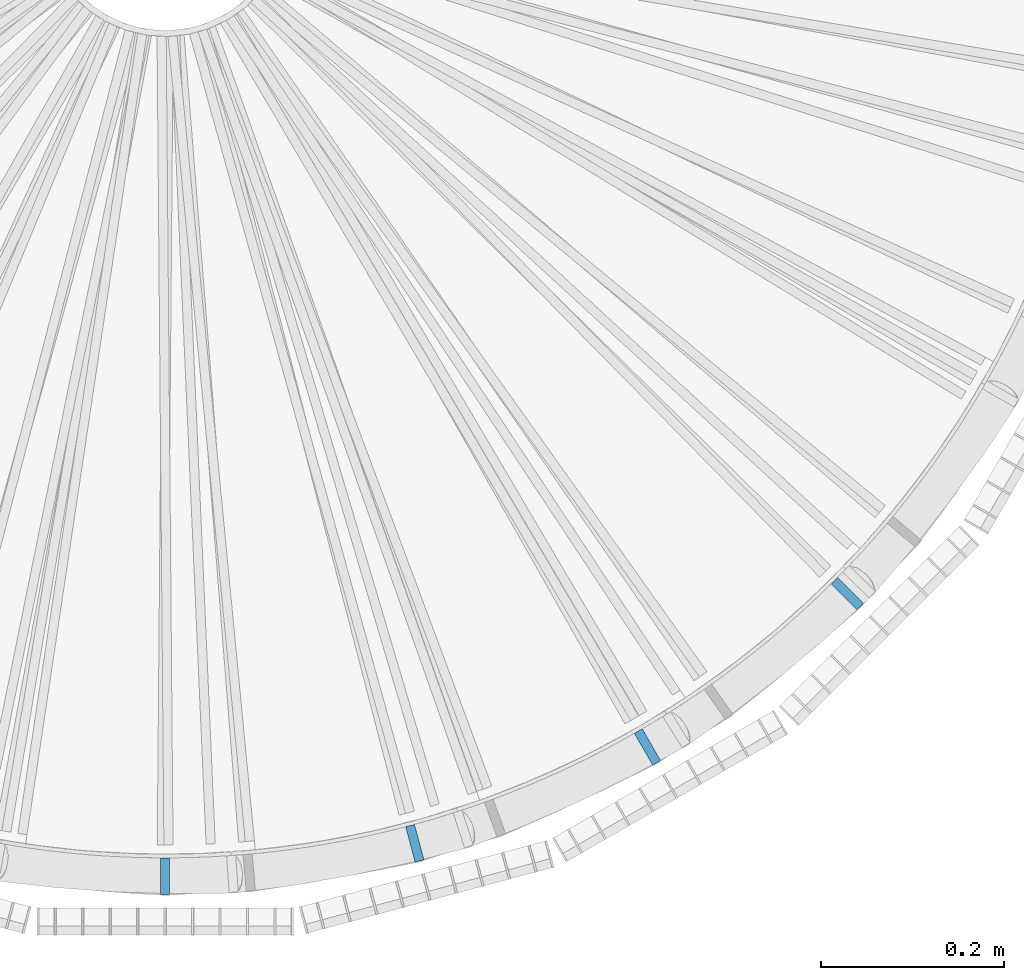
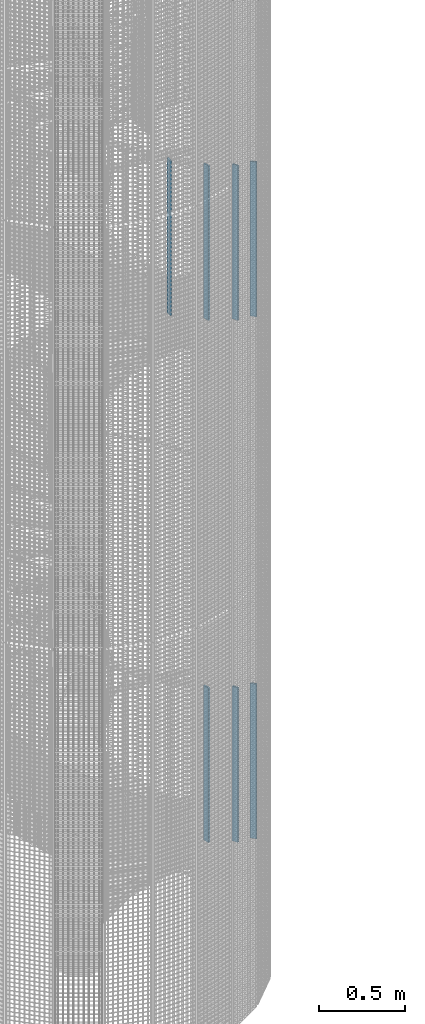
# One storey, part 43 of 1183: 7 columns, 7 elements without a shape of their own.
"""IFC2X3 building model written with IfcOpenShell, lengths in millimetres."""

from ifc_helpers import new_model, si_unit, frame, origin_with_axes, origin_2d_with_axis, place, context, subcontext, project, spatial, rectangle, extrude, material, type_object, element, aggregate, save


model = new_model("IFC2X3")

# Units and contexts
model_context = context("Model", 3, precision=1e-05, world=origin_with_axes())
body_context = subcontext(model_context, "Body", "Model", "MODEL_VIEW")
ifc_project = project(units=[si_unit("LENGTHUNIT", "METRE", prefix="MILLI"), si_unit("AREAUNIT", "SQUARE_METRE"), si_unit("VOLUMEUNIT", "CUBIC_METRE"), si_unit("MASSUNIT", "GRAM", prefix="KILO"), si_unit("TIMEUNIT", "SECOND"), si_unit("PLANEANGLEUNIT", "RADIAN"), si_unit("SOLIDANGLEUNIT", "STERADIAN"), si_unit("THERMODYNAMICTEMPERATUREUNIT", "DEGREE_CELSIUS"), si_unit("LUMINOUSINTENSITYUNIT", "LUMEN")], contexts=[model_context])

# Site, building, storey
site_placement = place(None, origin_with_axes())
site = spatial("IfcSite", under=ifc_project, at=site_placement, Name="Undefined", CompositionType="ELEMENT")
building_placement = place(site_placement, origin_with_axes())
building = spatial("IfcBuilding", under=site, at=building_placement, Name="Undefined", CompositionType="ELEMENT")
storey_placement = place(building_placement, origin_with_axes())
storey = spatial("IfcBuildingStorey", under=building, at=storey_placement, Name="Undefined", CompositionType="ELEMENT", Elevation=0.0)

# Assembly, column
assembly_1_placement = place(storey_placement, origin_with_axes())
assembly_1 = element("IfcElementAssembly", 1, at=assembly_1_placement, inside=storey, Name="MONTANT", AssemblyPlace="NOTDEFINED", PredefinedType="NOTDEFINED")
ifc_material = material(Name="STEEL/S235JR")
column_type = type_object("IfcColumnType", Name="PL10*40", PredefinedType="NOTDEFINED")
column_1_placement = place(assembly_1_placement, frame((22345.2905473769, -745.290547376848, 1081.64), z_axis=(0.0, 0.0, 1.0), x_axis=(-0.707106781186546, 0.707106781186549, 0.0)))
column_1 = element("IfcColumn", 2, at=column_1_placement, type_object=column_type, material=ifc_material, Name="MONTANT", context=body_context, shape_type="SweptSolid", body=[
    extrude(rectangle(XDim=10.0, YDim=40.0, at=origin_2d_with_axis()), frame((0.0, 0.0, 1100.0), z_axis=(0.0, 0.0, -1.0), x_axis=(0.0, 1.0, 0.0)), (0.0, 0.0, 1.0), 1100.0),
])
aggregate(assembly_1, [column_1])

assembly_2_placement = place(storey_placement, origin_with_axes())
assembly_2 = element("IfcElementAssembly", 3, at=assembly_2_placement, inside=storey, Name="MONTANT", AssemblyPlace="NOTDEFINED", PredefinedType="NOTDEFINED")
column_2_placement = place(assembly_2_placement, frame((22126.9999999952, -912.790775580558, 4944.64), z_axis=(0.0, 0.0, 1.0), x_axis=(-0.49999999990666, 0.866025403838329, 0.0)))
column_2 = element("IfcColumn", 4, at=column_2_placement, type_object=column_type, material=ifc_material, Name="MONTANT", context=body_context, shape_type="SweptSolid", body=[
    extrude(rectangle(XDim=10.0, YDim=40.0, at=origin_2d_with_axis()), frame((0.0, 0.0, 1100.0), z_axis=(0.0, 0.0, -1.0), x_axis=(0.0, 1.0, 0.0)), (0.0, 0.0, 1.0), 1100.0),
])
aggregate(assembly_2, [column_2])

assembly_3_placement = place(storey_placement, origin_with_axes())
assembly_3 = element("IfcElementAssembly", 5, at=assembly_3_placement, inside=storey, Name="MONTANT", AssemblyPlace="NOTDEFINED", PredefinedType="NOTDEFINED")
column_3_placement = place(assembly_3_placement, frame((22126.9999999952, -912.790775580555, 1236.16), z_axis=(0.0, 0.0, 1.0), x_axis=(-0.49999999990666, 0.866025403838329, 0.0)))
column_3 = element("IfcColumn", 6, at=column_3_placement, type_object=column_type, material=ifc_material, Name="MONTANT", context=body_context, shape_type="SweptSolid", body=[
    extrude(rectangle(XDim=10.0, YDim=40.0, at=origin_2d_with_axis()), frame((0.0, 0.0, 1100.0), z_axis=(0.0, 0.0, -1.0), x_axis=(0.0, 1.0, 0.0)), (0.0, 0.0, 1.0), 1100.0),
])
aggregate(assembly_3, [column_3])

assembly_4_placement = place(storey_placement, origin_with_axes())
assembly_4 = element("IfcElementAssembly", 7, at=assembly_4_placement, inside=storey, Name="MONTANT", AssemblyPlace="NOTDEFINED", PredefinedType="NOTDEFINED")
column_4_placement = place(assembly_4_placement, frame((21872.7952735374, -1018.08582090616, 5099.16), z_axis=(0.0, 0.0, 1.0), x_axis=(-0.258819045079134, 0.965925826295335, 0.0)))
column_4 = element("IfcColumn", 8, at=column_4_placement, type_object=column_type, material=ifc_material, Name="MONTANT", context=body_context, shape_type="SweptSolid", body=[
    extrude(rectangle(XDim=10.0, YDim=40.0, at=origin_2d_with_axis()), frame((0.0, 0.0, 1100.0), z_axis=(0.0, 0.0, -1.0), x_axis=(0.0, 1.0, 0.0)), (0.0, 0.0, 1.0), 1100.0),
])
aggregate(assembly_4, [column_4])

assembly_5_placement = place(storey_placement, origin_with_axes())
assembly_5 = element("IfcElementAssembly", 9, at=assembly_5_placement, inside=storey, Name="MONTANT", AssemblyPlace="NOTDEFINED", PredefinedType="NOTDEFINED")
column_5_placement = place(assembly_5_placement, frame((21872.7952735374, -1018.08582090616, 1390.68), z_axis=(0.0, 0.0, 1.0), x_axis=(-0.258819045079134, 0.965925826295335, 0.0)))
column_5 = element("IfcColumn", 10, at=column_5_placement, type_object=column_type, material=ifc_material, Name="MONTANT", context=body_context, shape_type="SweptSolid", body=[
    extrude(rectangle(XDim=10.0, YDim=40.0, at=origin_2d_with_axis()), frame((0.0, 0.0, 1100.0), z_axis=(0.0, 0.0, -1.0), x_axis=(0.0, 1.0, 0.0)), (0.0, 0.0, 1.0), 1100.0),
])
aggregate(assembly_5, [column_5])

assembly_6_placement = place(storey_placement, origin_with_axes())
assembly_6 = element("IfcElementAssembly", 11, at=assembly_6_placement, inside=storey, Name="MONTANT", AssemblyPlace="NOTDEFINED", PredefinedType="NOTDEFINED")
column_6_placement = place(assembly_6_placement, frame((22345.2905473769, -745.290547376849, 4790.12), z_axis=(0.0, 0.0, 1.0), x_axis=(-0.707106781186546, 0.707106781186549, 0.0)))
column_6 = element("IfcColumn", 12, at=column_6_placement, type_object=column_type, material=ifc_material, Name="MONTANT", context=body_context, shape_type="SweptSolid", body=[
    extrude(rectangle(XDim=10.0, YDim=40.0, at=origin_2d_with_axis()), frame((0.0, 0.0, 1100.0), z_axis=(0.0, 0.0, -1.0), x_axis=(0.0, 1.0, 0.0)), (0.0, 0.0, 1.0), 1100.0),
])
aggregate(assembly_6, [column_6])

assembly_7_placement = place(storey_placement, origin_with_axes())
assembly_7 = element("IfcElementAssembly", 13, at=assembly_7_placement, inside=storey, Name="MONTANT", AssemblyPlace="NOTDEFINED", PredefinedType="NOTDEFINED")
column_7_placement = place(assembly_7_placement, frame((21600.0, -1054.00000000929, 5253.68), z_axis=(0.0, 0.0, 1.0), x_axis=(0.0, 1.0, 0.0)))
column_7 = element("IfcColumn", 14, at=column_7_placement, type_object=column_type, material=ifc_material, Name="MONTANT", context=body_context, shape_type="SweptSolid", body=[
    extrude(rectangle(XDim=10.0, YDim=40.0, at=origin_2d_with_axis()), frame((0.0, 0.0, 1100.0), z_axis=(0.0, 0.0, -1.0), x_axis=(0.0, 1.0, 0.0)), (0.0, 0.0, 1.0), 1100.0),
])
aggregate(assembly_7, [column_7])

save(model, "model.ifc")
